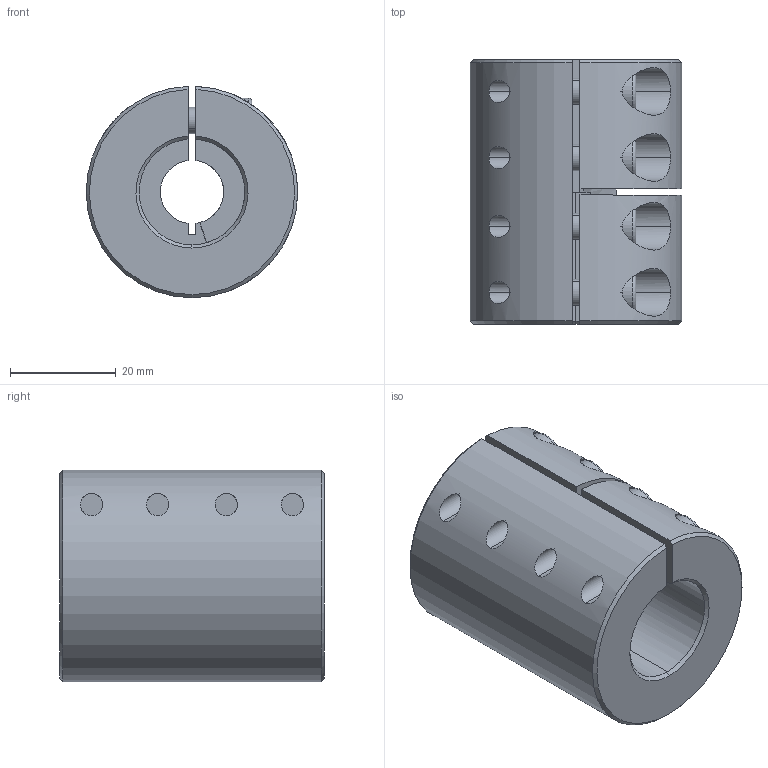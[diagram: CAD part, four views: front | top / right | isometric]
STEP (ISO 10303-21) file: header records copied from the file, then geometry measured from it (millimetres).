
FILE_DESCRIPTION (( 'STEP AP214' ), '1' );
FILE_NAME ('LL-B-D40L50-12-20½¨Ä£.STEP', '2022-07-22T00:23:14', ( '' ), ( '' ), 'SwSTEP 2.0', 'SolidWorks 2022', '' );
FILE_SCHEMA (( 'AUTOMOTIVE_DESIGN' ));
Length unit declared in the file: millimetre
Products named in the file (1): LL-B-D40L50-12-20膘耀
Bounding box: 40 x 50 x 39.99 mm (x, y, z)
Volume: 49145.9 mm3; surface area: 15473 mm2
Topology: 1 solids, 1 shells, 181 faces, 459 edges, 288 vertices
Faces by surface type: plane 87, cylinder 71, cone 15, torus 8
Entity records: 5971 total; most frequent: CARTESIAN_POINT 1511, DIRECTION 967, ORIENTED_EDGE 902, EDGE_CURVE 451, AXIS2_PLACEMENT_3D 376, VERTEX_POINT 288, LINE 215, VECTOR 215
